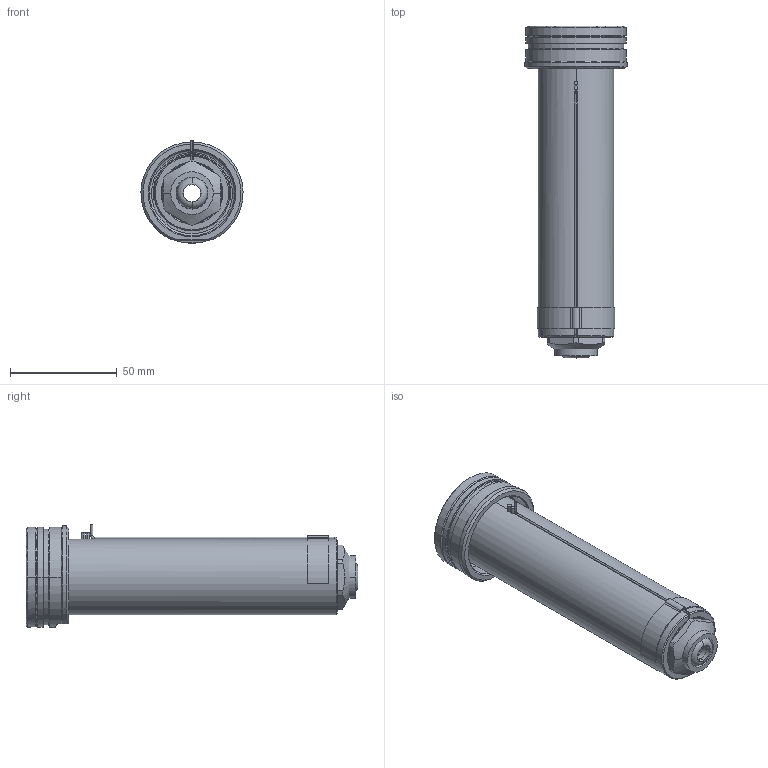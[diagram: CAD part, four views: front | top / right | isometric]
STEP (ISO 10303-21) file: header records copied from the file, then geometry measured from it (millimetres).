
FILE_DESCRIPTION((''),'2;1');
FILE_NAME('EO16_VG-BL_STD_140_SW','2024-02-19T13:18:59',('sundharh'),(''),'CREO PARAMETRIC BY PTC INC, 2023154','CREO PARAMETRIC BY PTC INC, 2023154','');
FILE_SCHEMA(('CONFIG_CONTROL_DESIGN'));
Length unit declared in the file: millimetre
Products named in the file (1): EO16_VG-BL_STD_140_SW
Bounding box: 47.97 x 155.8 x 48 mm (x, y, z)
Volume: 130656.1 mm3; surface area: 33874 mm2
Topology: 1 solids, 1 shells, 192 faces, 463 edges, 279 vertices
Faces by surface type: cylinder 72, plane 46, cone 37, torus 22, bspline 13, sphere 2
Entity records: 6476 total; most frequent: CARTESIAN_POINT 1921, DIRECTION 1020, ORIENTED_EDGE 914, EDGE_CURVE 457, AXIS2_PLACEMENT_3D 426, VERTEX_POINT 279, CIRCLE 247, EDGE_LOOP 208
